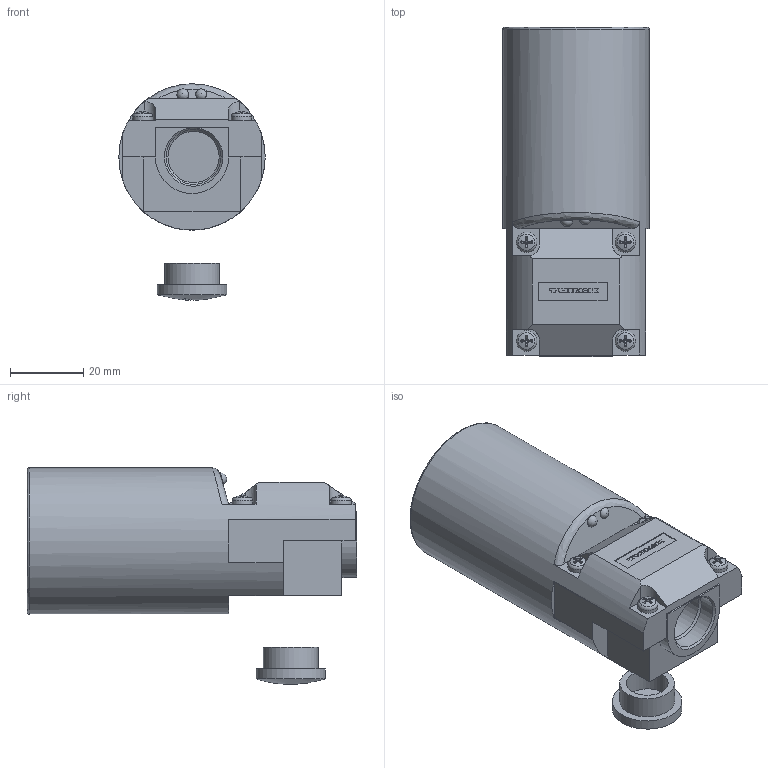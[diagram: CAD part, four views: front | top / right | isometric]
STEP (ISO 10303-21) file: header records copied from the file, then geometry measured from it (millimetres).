
FILE_DESCRIPTION((''),'2;1');
FILE_NAME('C:\TurckZip\K40SR-X2.stp','2010-01-26T10:26:03',('IKOROL'),(''),'Autodesk Inventor 2009','Autodesk Inventor 2009','');
FILE_SCHEMA(('CONFIG_CONTROL_DESIGN'));
Length unit declared in the file: millimetre
Products named in the file (1): Part4
Bounding box: 40 x 90 x 59.15 mm (x, y, z)
Volume: 98430.6 mm3; surface area: 16467.8 mm2
Topology: 4 solids, 4 shells, 363 faces, 1011 edges, 668 vertices
Faces by surface type: plane 274, cone 39, torus 21, cylinder 21, sphere 7, bspline 1
Full cylindrical faces by diameter (mm): 2 x2, 3.25 x1, 5.6 x4, 11.5 x1, 14 x1, 15 x3, 19 x1, 40 x1
Entity records: 12341 total; most frequent: CARTESIAN_POINT 2977, ORIENTED_EDGE 1932, DIRECTION 1707, EDGE_CURVE 966, VECTOR 681, LINE 681, VERTEX_POINT 651, AXIS2_PLACEMENT_3D 513
